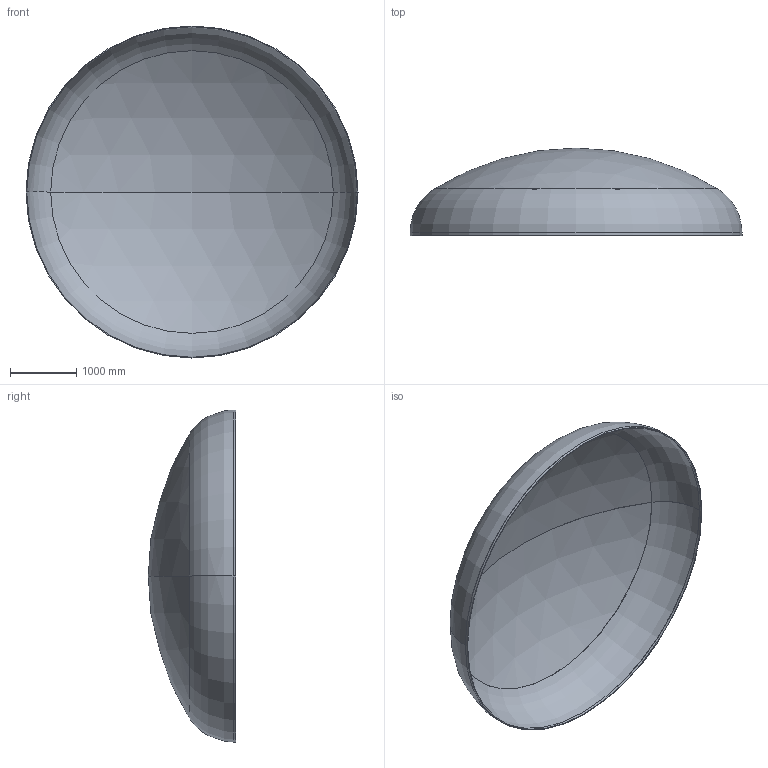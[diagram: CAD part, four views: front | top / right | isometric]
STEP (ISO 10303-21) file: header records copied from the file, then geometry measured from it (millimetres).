
FILE_DESCRIPTION (( 'STEP AP203' ), '1' );
FILE_NAME ('DIN 28013 Korbbogenform_-_Boden DIN 28013 - 5000 x 40 - I - s=11.step', '2016-07-02T00:04:35', ( '' ), ( '' ), 'SwSTEP 2.0', 'SolidWorks 2013', '' );
FILE_SCHEMA (( 'CONFIG_CONTROL_DESIGN' ));
Length unit declared in the file: millimetre
Products named in the file (1): DIN 28013 Korbbogenform_-_Boden DIN 28013 - 5000 x 40 - I - s=11
Bounding box: 5000 x 1316.42 x 5000 mm (x, y, z)
Volume: 305188873.5 mm3; surface area: 55661524.2 mm2
Topology: 1 solids, 1 shells, 13 faces, 24 edges, 14 vertices
Faces by surface type: torus 4, cylinder 4, sphere 4, plane 1
Entity records: 407 total; most frequent: DIRECTION 72, CARTESIAN_POINT 52, ORIENTED_EDGE 48, AXIS2_PLACEMENT_3D 34, EDGE_CURVE 24, CIRCLE 20, VERTEX_POINT 14, EDGE_LOOP 14
